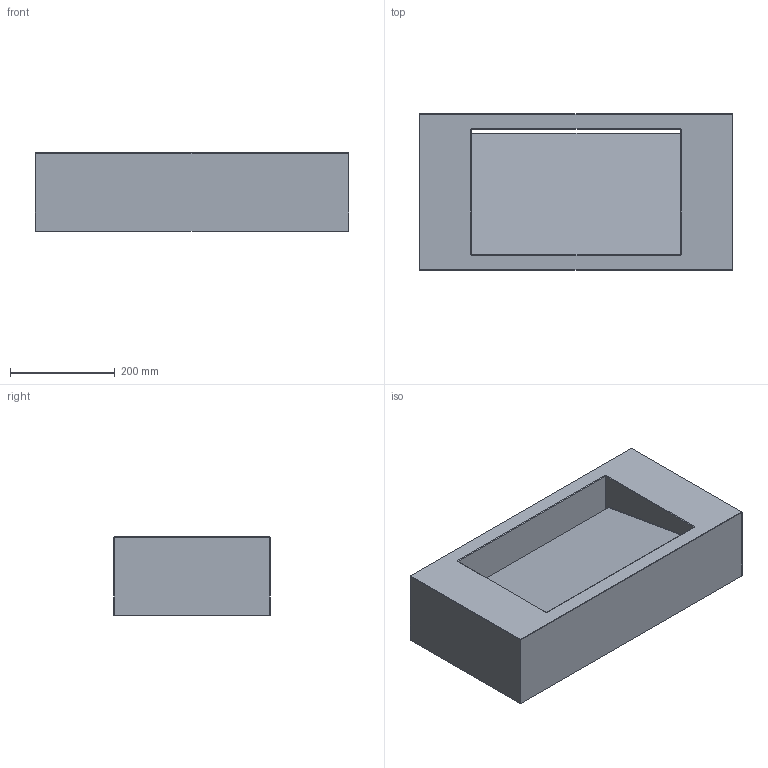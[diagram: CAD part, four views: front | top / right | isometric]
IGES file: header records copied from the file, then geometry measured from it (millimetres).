
Global section: file name: \\Archi-NAS\Comune\X GIOVANNI\SCHEDE PRODOTTO\LAVABI\SOSPESI\CUBATECNO\3D\MOMA DESIGN_LAVABI SOSPESI_CUBATECNO 2.igs; native system: Rhinoceros ( Jan 17 2018 ); preprocessor: Trout Lake IGES 012 Jan 17 2018; date: 230629.135827; units: millimetre
Bounding box: 600 x 300 x 150 mm (x, y, z)
Surface area: 550311.7 mm2 (no closed solid volume)
Topology: 0 solids, 0 shells, 45 faces, 202 edges, 196 vertices
Faces by surface type: bspline 45
